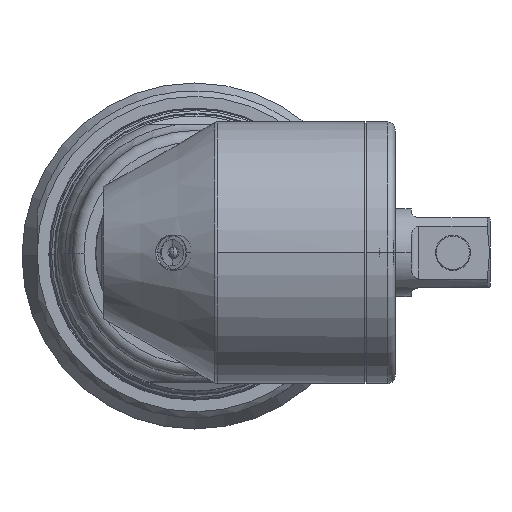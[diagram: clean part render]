
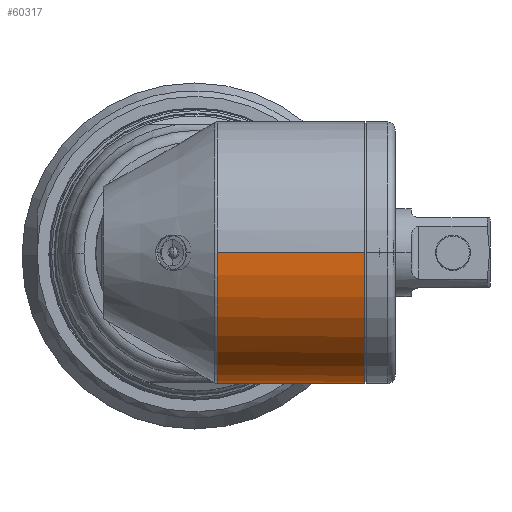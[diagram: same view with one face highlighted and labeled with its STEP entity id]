
A CAD part, top view. The second image highlights one B-rep face of the part: STEP entity #60317.
In plain terms, the highlighted cylindrical face has radius 17.78 mm (diameter 35.56 mm), a partial arc.
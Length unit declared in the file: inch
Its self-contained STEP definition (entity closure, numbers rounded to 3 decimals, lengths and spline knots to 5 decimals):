
#411 = VERTEX_POINT ( 'NONE', #27736 ) ;
#743 = CARTESIAN_POINT ( 'NONE',  ( -3.59961, 0., 0.7 ) ) ;
#1266 = CARTESIAN_POINT ( 'NONE',  ( -2.73172, -0.48507, -0.50508 ) ) ;
#1501 = CARTESIAN_POINT ( 'NONE',  ( -2.42767, -0.13444, -0.68716 ) ) ;
#4661 = ORIENTED_EDGE ( 'NONE', *, *, #66152, .T. ) ;
#5872 = CARTESIAN_POINT ( 'NONE',  ( -2.88157, -0.54546, -0.43873 ) ) ;
#5949 = EDGE_CURVE ( 'NONE', #55223, #46743, #62829, .T. ) ;
#6674 = ORIENTED_EDGE ( 'NONE', *, *, #10300, .F. ) ;
#6684 = CARTESIAN_POINT ( 'NONE',  ( -2.67679, -0.4551, -0.53198 ) ) ;
#6917 = CARTESIAN_POINT ( 'NONE',  ( -2.41664, -0.08534, -0.69498 ) ) ;
#8250 = FACE_OUTER_BOUND ( 'NONE', #36501, .T. ) ;
#10300 = EDGE_CURVE ( 'NONE', #37063, #46743, #58621, .T. ) ;
#10985 = DIRECTION ( 'NONE',  ( 0., 0., -1. ) ) ;
#11202 = CARTESIAN_POINT ( 'NONE',  ( -2.8819, -0.543, -0.44178 ) ) ;
#12021 = CARTESIAN_POINT ( 'NONE',  ( -2.63748, -0.42927, -0.55305 ) ) ;
#12264 = CARTESIAN_POINT ( 'NONE',  ( -2.41051, -0.03452, -0.69936 ) ) ;
#14621 = B_SPLINE_CURVE_WITH_KNOTS ( 'NONE', 3,
 ( #33057, #43726, #59856, #27869, #65188, #33302, #1266, #38642, #6684, #43985, #12021, #49346, #17426, #54705, #22752, #60092, #28101, #65412, #33516, #1501, #38877, #6917, #44200, #12264, #49554, #17650 ),
 .UNSPECIFIED., .F., .F.,
 ( 4, 2, 2, 2, 2, 2, 2, 2, 2, 2, 2, 2, 4 ),
 ( 0.00008, 0.00139, 0.00271, 0.00534, 0.00666, 0.00798, 0.01061, 0.01324, 0.01587, 0.01719, 0.0185, 0.01982, 0.02114 ),
 .UNSPECIFIED. ) ;
#14839 = VERTEX_POINT ( 'NONE', #37093 ) ;
#15120 = CARTESIAN_POINT ( 'NONE',  ( -2.88157, 0., 0. ) ) ;
#16296 = AXIS2_PLACEMENT_3D ( 'NONE', #48101, #26635, #10985 ) ;
#16425 = CIRCLE ( 'NONE', #17978, 0.7 ) ;
#16616 = CARTESIAN_POINT ( 'NONE',  ( -2.88477, -0.53565, -0.45066 ) ) ;
#16813 = AXIS2_PLACEMENT_3D ( 'NONE', #25826, #60758, #20485 ) ;
#17426 = CARTESIAN_POINT ( 'NONE',  ( -2.57697, -0.38038, -0.58823 ) ) ;
#17650 = CARTESIAN_POINT ( 'NONE',  ( -2.40961, 0., -0.7 ) ) ;
#17978 = AXIS2_PLACEMENT_3D ( 'NONE', #15120, #52438, #20511 ) ;
#18250 = ORIENTED_EDGE ( 'NONE', *, *, #50090, .T. ) ;
#20485 = DIRECTION ( 'NONE',  ( 0., 0., 1. ) ) ;
#20511 = DIRECTION ( 'NONE',  ( 0., 0., -1. ) ) ;
#22577 = CARTESIAN_POINT ( 'NONE',  ( -2.09461, 0., 0.7 ) ) ;
#22752 = CARTESIAN_POINT ( 'NONE',  ( -2.51368, -0.30979, -0.6284 ) ) ;
#23938 = DIRECTION ( 'NONE',  ( 1., 0., 0. ) ) ;
#25031 = VERTEX_POINT ( 'NONE', #52971 ) ;
#25331 = VECTOR ( 'NONE', #23938, 39.37008 ) ;
#25826 = CARTESIAN_POINT ( 'NONE',  ( -2.09461, 0., 0. ) ) ;
#26635 = DIRECTION ( 'NONE',  ( 1., 0., 0. ) ) ;
#27736 = CARTESIAN_POINT ( 'NONE',  ( -2.40961, 0., -0.7 ) ) ;
#27869 = CARTESIAN_POINT ( 'NONE',  ( -2.82157, -0.51831, -0.47052 ) ) ;
#28101 = CARTESIAN_POINT ( 'NONE',  ( -2.46282, -0.22792, -0.66263 ) ) ;
#30289 = VECTOR ( 'NONE', #41591, 39.37008 ) ;
#31603 = EDGE_CURVE ( 'NONE', #411, #55223, #39536, .T. ) ;
#33057 = CARTESIAN_POINT ( 'NONE',  ( -2.88662, -0.53336, -0.45335 ) ) ;
#33302 = CARTESIAN_POINT ( 'NONE',  ( -2.76054, -0.49771, -0.49247 ) ) ;
#33516 = CARTESIAN_POINT ( 'NONE',  ( -2.43761, -0.16626, -0.68016 ) ) ;
#35467 = CARTESIAN_POINT ( 'NONE',  ( -2.88157, 0., 0.7 ) ) ;
#36501 = EDGE_LOOP ( 'NONE', ( #6674, #18250, #4661, #48335, #69253, #61873 ) ) ;
#36630 = B_SPLINE_CURVE_WITH_KNOTS ( 'NONE', 3,
 ( #42483, #5872, #11202, #48532, #16616, #53913 ),
 .UNSPECIFIED., .F., .F.,
 ( 4, 2, 4 ),
 ( 0., 0.0003, 0.0006 ),
 .UNSPECIFIED. ) ;
#37063 = VERTEX_POINT ( 'NONE', #35467 ) ;
#37093 = CARTESIAN_POINT ( 'NONE',  ( -2.88662, -0.53336, -0.45335 ) ) ;
#38642 = CARTESIAN_POINT ( 'NONE',  ( -2.6903, -0.46299, -0.52511 ) ) ;
#38877 = CARTESIAN_POINT ( 'NONE',  ( -2.42346, -0.11826, -0.69014 ) ) ;
#39536 = LINE ( 'NONE', #56089, #25331 ) ;
#41591 = DIRECTION ( 'NONE',  ( 1., 0., 0. ) ) ;
#42483 = CARTESIAN_POINT ( 'NONE',  ( -2.88157, -0.54793, -0.43562 ) ) ;
#43726 = CARTESIAN_POINT ( 'NONE',  ( -2.86996, -0.53037, -0.45687 ) ) ;
#43985 = CARTESIAN_POINT ( 'NONE',  ( -2.65036, -0.43824, -0.54596 ) ) ;
#44200 = CARTESIAN_POINT ( 'NONE',  ( -2.41403, -0.0686, -0.69684 ) ) ;
#46743 = VERTEX_POINT ( 'NONE', #22577 ) ;
#48101 = CARTESIAN_POINT ( 'NONE',  ( -3.59961, 0., 0. ) ) ;
#48335 = ORIENTED_EDGE ( 'NONE', *, *, #53631, .T. ) ;
#48532 = CARTESIAN_POINT ( 'NONE',  ( -2.88349, -0.53809, -0.44774 ) ) ;
#48805 = CARTESIAN_POINT ( 'NONE',  ( -2.09461, 0., -0.7 ) ) ;
#49346 = CARTESIAN_POINT ( 'NONE',  ( -2.60019, -0.40105, -0.5742 ) ) ;
#49554 = CARTESIAN_POINT ( 'NONE',  ( -2.40961, -0.01719, -0.7 ) ) ;
#50090 = EDGE_CURVE ( 'NONE', #37063, #25031, #16425, .T. ) ;
#52438 = DIRECTION ( 'NONE',  ( 1., 0., 0. ) ) ;
#52971 = CARTESIAN_POINT ( 'NONE',  ( -2.88157, -0.54793, -0.43562 ) ) ;
#53631 = EDGE_CURVE ( 'NONE', #14839, #411, #14621, .T. ) ;
#53913 = CARTESIAN_POINT ( 'NONE',  ( -2.88662, -0.53336, -0.45335 ) ) ;
#54705 = CARTESIAN_POINT ( 'NONE',  ( -2.53375, -0.33483, -0.6153 ) ) ;
#55223 = VERTEX_POINT ( 'NONE', #48805 ) ;
#56089 = CARTESIAN_POINT ( 'NONE',  ( -3.59961, 0., -0.7 ) ) ;
#56604 = CYLINDRICAL_SURFACE ( 'NONE', #16296, 0.7 ) ;
#58621 = LINE ( 'NONE', #743, #30289 ) ;
#59856 = CARTESIAN_POINT ( 'NONE',  ( -2.85354, -0.52673, -0.46109 ) ) ;
#60092 = CARTESIAN_POINT ( 'NONE',  ( -2.4783, -0.2564, -0.65201 ) ) ;
#60317 = ADVANCED_FACE ( 'NONE', ( #8250 ), #56604, .T. ) ;
#60758 = DIRECTION ( 'NONE',  ( -1., 0., 0. ) ) ;
#61873 = ORIENTED_EDGE ( 'NONE', *, *, #5949, .T. ) ;
#62829 = CIRCLE ( 'NONE', #16813, 0.7 ) ;
#65188 = CARTESIAN_POINT ( 'NONE',  ( -2.80603, -0.51356, -0.47573 ) ) ;
#65412 = CARTESIAN_POINT ( 'NONE',  ( -2.44338, -0.18196, -0.67612 ) ) ;
#66152 = EDGE_CURVE ( 'NONE', #25031, #14839, #36630, .T. ) ;
#69253 = ORIENTED_EDGE ( 'NONE', *, *, #31603, .T. ) ;
